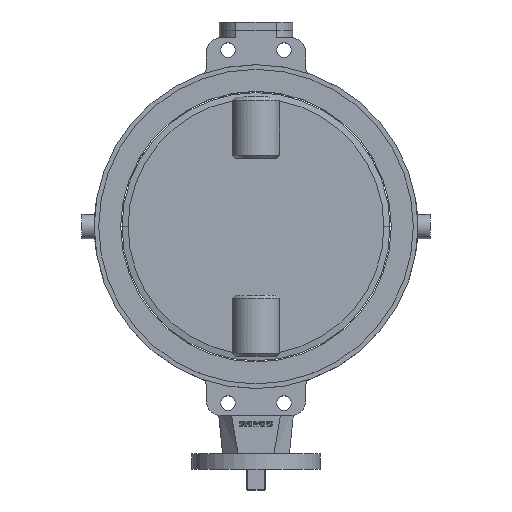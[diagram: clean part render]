
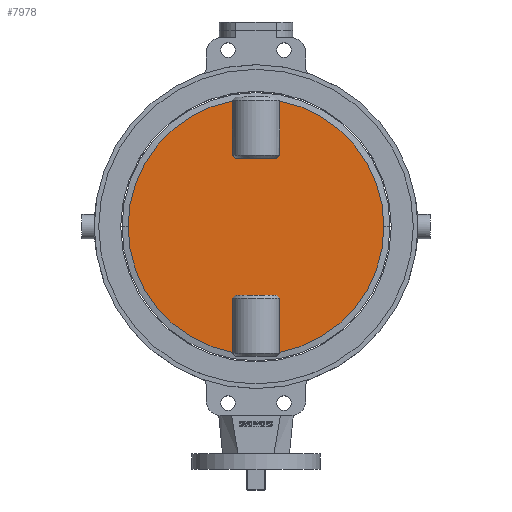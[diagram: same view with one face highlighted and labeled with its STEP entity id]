
A CAD part, top view. The second image highlights one B-rep face of the part: STEP entity #7978.
In plain terms, the highlighted planar face has unit normal (0, 0, 1).
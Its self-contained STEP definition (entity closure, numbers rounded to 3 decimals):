
#7491=CARTESIAN_POINT('',(209.451,0.,67.0));
#7492=VERTEX_POINT('',#7491);
#7506=CARTESIAN_POINT('',(-209.451,0.,67.0));
#7507=VERTEX_POINT('',#7506);
#7514=CARTESIAN_POINT('',(-38.73,205.839,67.));
#7515=VERTEX_POINT('',#7514);
#7516=CARTESIAN_POINT('',(0.0,0.0,67.0));
#7517=DIRECTION('',(0.0,0.0,-1.0));
#7518=DIRECTION('',(1.0,0.0,0.0));
#7519=AXIS2_PLACEMENT_3D('',#7516,#7517,#7518);
#7520=CIRCLE('',#7519,209.451);
#7521=EDGE_CURVE('',#7507,#7515,#7520,.T.);
#7569=CARTESIAN_POINT('',(38.73,205.839,67.));
#7570=VERTEX_POINT('',#7569);
#7578=CARTESIAN_POINT('',(0.0,0.0,67.0));
#7579=DIRECTION('',(0.0,0.0,-1.0));
#7580=DIRECTION('',(1.0,0.0,0.0));
#7581=AXIS2_PLACEMENT_3D('',#7578,#7579,#7580);
#7582=CIRCLE('',#7581,209.451);
#7583=EDGE_CURVE('',#7570,#7492,#7582,.T.);
#7664=CARTESIAN_POINT('',(-38.73,-117.264,67.0));
#7665=VERTEX_POINT('',#7664);
#7666=CARTESIAN_POINT('',(-33.541,-112.264,67.0));
#7667=VERTEX_POINT('',#7666);
#7668=CARTESIAN_POINT('',(-38.73,-117.264,67.0));
#7669=CARTESIAN_POINT('',(-35.962,-114.584,67.0));
#7670=CARTESIAN_POINT('',(-33.541,-112.264,67.0));
#7678=(BOUNDED_CURVE()B_SPLINE_CURVE(2,(#7668,#7669,#7670),.UNSPECIFIED.,.F.,.U.)B_SPLINE_CURVE_WITH_KNOTS((3,3),(0.0,7.206),.UNSPECIFIED.)CURVE()GEOMETRIC_REPRESENTATION_ITEM()RATIONAL_B_SPLINE_CURVE((1.0,1.002,1.0))REPRESENTATION_ITEM(''));
#7679=EDGE_CURVE('',#7665,#7667,#7678,.T.);
#7681=CARTESIAN_POINT('',(38.73,-117.264,67.0));
#7682=VERTEX_POINT('',#7681);
#7690=CARTESIAN_POINT('',(33.541,-112.264,67.0));
#7691=VERTEX_POINT('',#7690);
#7692=CARTESIAN_POINT('',(33.541,-112.264,67.0));
#7693=CARTESIAN_POINT('',(35.962,-114.584,67.0));
#7694=CARTESIAN_POINT('',(38.73,-117.264,67.0));
#7702=(BOUNDED_CURVE()B_SPLINE_CURVE(2,(#7692,#7693,#7694),.UNSPECIFIED.,.F.,.U.)B_SPLINE_CURVE_WITH_KNOTS((3,3),(0.0,7.206),.UNSPECIFIED.)CURVE()GEOMETRIC_REPRESENTATION_ITEM()RATIONAL_B_SPLINE_CURVE((1.0,1.002,1.0))REPRESENTATION_ITEM(''));
#7703=EDGE_CURVE('',#7691,#7682,#7702,.T.);
#7750=CARTESIAN_POINT('',(-38.73,-205.839,67.0));
#7751=VERTEX_POINT('',#7750);
#7752=CARTESIAN_POINT('',(-38.73,-205.839,67.0));
#7753=DIRECTION('',(0.0,1.0,0.0));
#7754=VECTOR('',#7753,88.575);
#7755=LINE('',#7752,#7754);
#7756=EDGE_CURVE('',#7751,#7665,#7755,.T.);
#7776=CARTESIAN_POINT('',(38.73,-205.839,67.0));
#7777=VERTEX_POINT('',#7776);
#7785=CARTESIAN_POINT('',(38.73,-117.264,67.0));
#7786=DIRECTION('',(0.0,-1.0,0.0));
#7787=VECTOR('',#7786,88.575);
#7788=LINE('',#7785,#7787);
#7789=EDGE_CURVE('',#7682,#7777,#7788,.T.);
#7888=CARTESIAN_POINT('',(-33.541,-112.264,67.0));
#7889=DIRECTION('',(1.0,0.0,0.0));
#7890=VECTOR('',#7889,67.082);
#7891=LINE('',#7888,#7890);
#7892=EDGE_CURVE('',#7667,#7691,#7891,.T.);
#7898=CARTESIAN_POINT('',(0.0,0.0,67.0));
#7899=DIRECTION('',(0.0,0.0,1.0));
#7900=DIRECTION('',(-1.0,0.0,0.0));
#7901=AXIS2_PLACEMENT_3D('',#7898,#7899,#7900);
#7902=PLANE('',#7901);
#7903=ORIENTED_EDGE('',*,*,#7756,.T.);
#7904=ORIENTED_EDGE('',*,*,#7679,.T.);
#7905=ORIENTED_EDGE('',*,*,#7892,.T.);
#7906=ORIENTED_EDGE('',*,*,#7703,.T.);
#7907=ORIENTED_EDGE('',*,*,#7789,.T.);
#7908=CARTESIAN_POINT('',(0.0,0.0,67.0));
#7909=DIRECTION('',(0.0,0.0,-1.0));
#7910=DIRECTION('',(1.0,0.0,0.0));
#7911=AXIS2_PLACEMENT_3D('',#7908,#7909,#7910);
#7912=CIRCLE('',#7911,209.451);
#7913=EDGE_CURVE('',#7492,#7777,#7912,.T.);
#7914=ORIENTED_EDGE('',*,*,#7913,.F.);
#7915=ORIENTED_EDGE('',*,*,#7583,.F.);
#7916=CARTESIAN_POINT('',(38.73,117.264,67.0));
#7917=VERTEX_POINT('',#7916);
#7918=CARTESIAN_POINT('',(38.73,117.264,67.0));
#7919=DIRECTION('',(0.0,1.0,0.0));
#7920=VECTOR('',#7919,88.575);
#7921=LINE('',#7918,#7920);
#7922=EDGE_CURVE('',#7917,#7570,#7921,.T.);
#7923=ORIENTED_EDGE('',*,*,#7922,.F.);
#7924=CARTESIAN_POINT('',(33.541,112.264,67.0));
#7925=VERTEX_POINT('',#7924);
#7926=CARTESIAN_POINT('',(33.541,112.264,67.0));
#7927=CARTESIAN_POINT('',(35.962,114.584,67.0));
#7928=CARTESIAN_POINT('',(38.73,117.264,67.0));
#7936=(BOUNDED_CURVE()B_SPLINE_CURVE(2,(#7926,#7927,#7928),.UNSPECIFIED.,.F.,.U.)B_SPLINE_CURVE_WITH_KNOTS((3,3),(0.0,7.206),.UNSPECIFIED.)CURVE()GEOMETRIC_REPRESENTATION_ITEM()RATIONAL_B_SPLINE_CURVE((1.0,1.002,1.0))REPRESENTATION_ITEM(''));
#7937=EDGE_CURVE('',#7925,#7917,#7936,.T.);
#7938=ORIENTED_EDGE('',*,*,#7937,.F.);
#7939=CARTESIAN_POINT('',(-33.541,112.264,67.0));
#7940=VERTEX_POINT('',#7939);
#7941=CARTESIAN_POINT('',(-33.541,112.264,67.0));
#7942=DIRECTION('',(1.0,0.0,0.0));
#7943=VECTOR('',#7942,67.082);
#7944=LINE('',#7941,#7943);
#7945=EDGE_CURVE('',#7940,#7925,#7944,.T.);
#7946=ORIENTED_EDGE('',*,*,#7945,.F.);
#7947=CARTESIAN_POINT('',(-38.73,117.264,67.0));
#7948=VERTEX_POINT('',#7947);
#7949=CARTESIAN_POINT('',(-38.73,117.264,67.0));
#7950=CARTESIAN_POINT('',(-35.962,114.584,67.0));
#7951=CARTESIAN_POINT('',(-33.541,112.264,67.0));
#7959=(BOUNDED_CURVE()B_SPLINE_CURVE(2,(#7949,#7950,#7951),.UNSPECIFIED.,.F.,.U.)B_SPLINE_CURVE_WITH_KNOTS((3,3),(0.0,7.206),.UNSPECIFIED.)CURVE()GEOMETRIC_REPRESENTATION_ITEM()RATIONAL_B_SPLINE_CURVE((1.0,1.002,1.0))REPRESENTATION_ITEM(''));
#7960=EDGE_CURVE('',#7948,#7940,#7959,.T.);
#7961=ORIENTED_EDGE('',*,*,#7960,.F.);
#7962=CARTESIAN_POINT('',(-38.73,205.839,67.));
#7963=DIRECTION('',(0.0,-1.0,0.0));
#7964=VECTOR('',#7963,88.575);
#7965=LINE('',#7962,#7964);
#7966=EDGE_CURVE('',#7515,#7948,#7965,.T.);
#7967=ORIENTED_EDGE('',*,*,#7966,.F.);
#7968=ORIENTED_EDGE('',*,*,#7521,.F.);
#7969=CARTESIAN_POINT('',(0.0,0.0,67.0));
#7970=DIRECTION('',(0.0,0.0,-1.0));
#7971=DIRECTION('',(1.0,0.0,0.0));
#7972=AXIS2_PLACEMENT_3D('',#7969,#7970,#7971);
#7973=CIRCLE('',#7972,209.451);
#7974=EDGE_CURVE('',#7751,#7507,#7973,.T.);
#7975=ORIENTED_EDGE('',*,*,#7974,.F.);
#7976=EDGE_LOOP('',(#7903,#7904,#7905,#7906,#7907,#7914,#7915,#7923,#7938,#7946,#7961,#7967,#7968,#7975));
#7977=FACE_OUTER_BOUND('',#7976,.T.);
#7978=ADVANCED_FACE('',(#7977),#7902,.T.);
